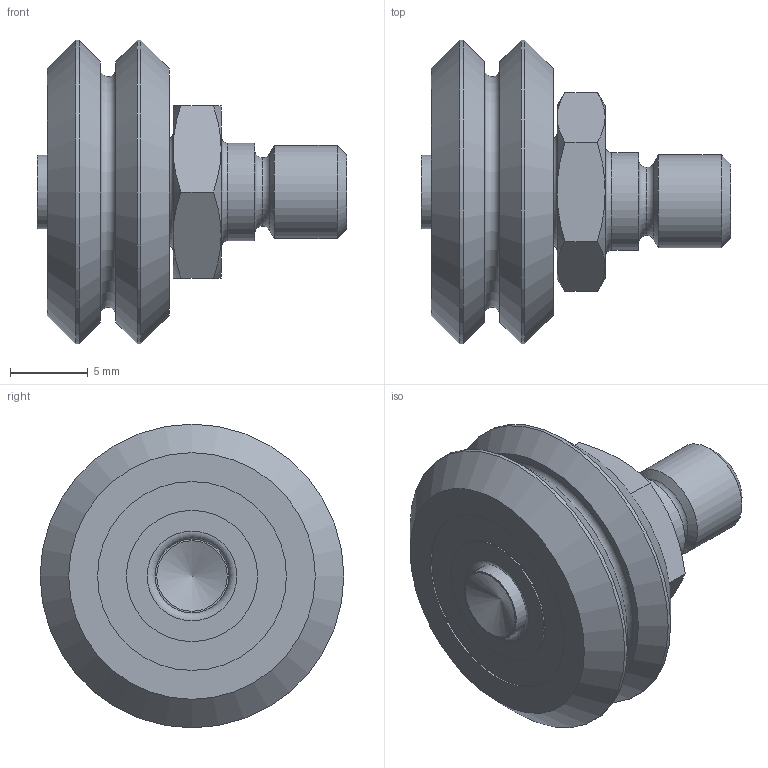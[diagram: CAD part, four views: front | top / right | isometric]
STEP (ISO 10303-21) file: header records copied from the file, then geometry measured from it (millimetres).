
FILE_DESCRIPTION( ( 'STEP AP214' ), '1' );
FILE_NAME( 'p:/temp/worker_30/temp/app_47_02019012316053833251079192d056f_000000_00_00_000000/format_0/SWSE1XA.stp', '2019-01-23T15:05:39', ( '' ), ( '' ), ' ', 'PARTsolutions', ' ' );
FILE_SCHEMA( ( 'AUTOMOTIVE_DESIGN { 1 0 10303 214 1 1 1 1 }' ) );
Length unit declared in the file: inch
Products named in the file (3): SWSE1XA; _SWSE1; _W1X
Assembly tree (2 placements, depth 2):
  SWSE1XA
    _SWSE1
    _W1X
Bounding box: 19.96 x 19.58 x 19.58 mm (x, y, z)
Volume: 2476.2 mm3; surface area: 1806.5 mm2
Topology: 2 solids, 2 shells, 65 faces, 117 edges, 70 vertices
Faces by surface type: plane 24, cone 19, cylinder 14, torus 8
Full cylindrical faces by diameter (mm): 4.752 x1, 4.762 x1, 6 x1, 6.299 x1, 8.23 x2, 8.458 x2, 12.179 x2, 12.408 x2, 19.583 x2
Entity records: 2076 total; most frequent: CARTESIAN_POINT 345, DIRECTION 256, ORIENTED_EDGE 174, AXIS2_PLACEMENT_3D 125, EDGE_LOOP 110, FACE_OUTER_BOUND 87, EDGE_CURVE 87, VERTEX_POINT 70
